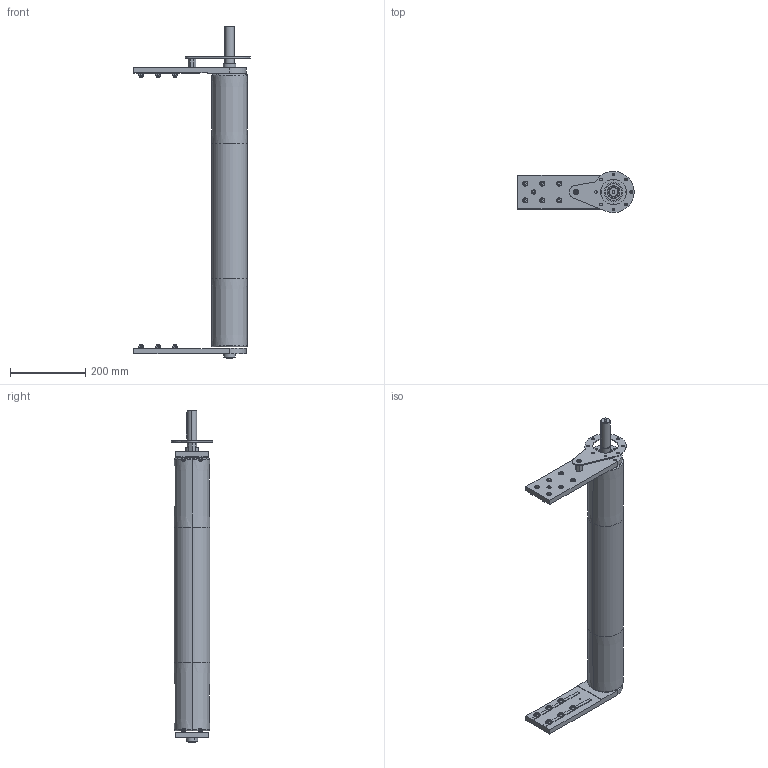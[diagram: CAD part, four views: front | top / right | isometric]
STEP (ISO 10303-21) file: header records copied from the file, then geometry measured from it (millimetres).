
FILE_DESCRIPTION (( 'STEP AP203' ), '1' );
FILE_NAME ('084.095.KD.49.700.STEP', '2015-07-16T08:56:05', ( '' ), ( '' ), 'SwSTEP 2.0', 'SolidWorks 2012', '' );
FILE_SCHEMA (( 'CONFIG_CONTROL_DESIGN' ));
Length unit declared in the file: millimetre
Products named in the file (1): 084.095.KD.49.700
Bounding box: 310 x 110 x 884.5 mm (x, y, z)
Surface area: 415928 mm2 (no closed solid volume)
Topology: 0 solids, 55 shells, 522 faces, 1642 edges, 1164 vertices
Faces by surface type: plane 305, cylinder 125, torus 52, cone 36, sphere 2, bspline 2
Entity records: 19264 total; most frequent: CARTESIAN_POINT 4627, DIRECTION 3111, ORIENTED_EDGE 2676, EDGE_CURVE 1638, VERTEX_POINT 1162, AXIS2_PLACEMENT_3D 1144, VECTOR 823, LINE 823
